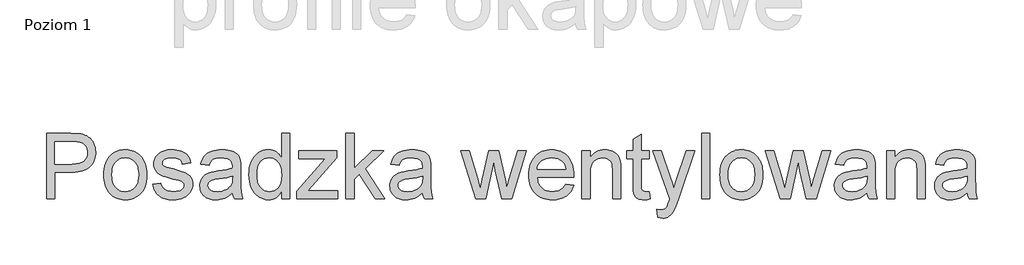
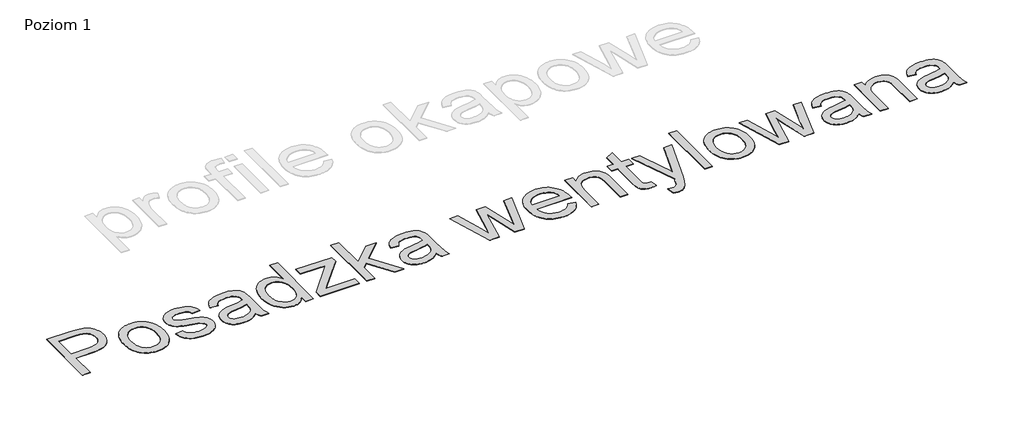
# One storey, part 2 of 4: 1 proxy.
"""IFC4 building model written with IfcOpenShell, lengths in millimetres."""

from ifc_helpers import new_model, si_unit, origin, origin_with_axes, place, context, project, spatial, polyline, outline, extrude, element, save

model = new_model("IFC4")

# Units and contexts
model_context = context("Model", 3, world=origin())
ifc_project = project(units=[si_unit("LENGTHUNIT", "METRE", prefix="MILLI")], contexts=[model_context])

# Site, building, storey
site = spatial("IfcSite", under=ifc_project)
building = spatial("IfcBuilding", under=site)
storey = spatial("IfcBuildingStorey", under=building, Name="Poziom 1", Elevation=0.0)

# Proxy
placement = place(None, origin())
element("IfcBuildingElementProxy", 1, Name="1500 mm Arial", ObjectType="1500 mm Arial", at=placement, inside=storey, context=model_context, shape_type="SweptSolid", body=[
    extrude(outline(polyline([(-57786.8765963, 13469.9710949), (-57786.8765963, 14976.8157471), (-57228.4317277, 14976.8157471), (-57098.3854424, 14973.2288977), (-57003.2879466, 14962.4683493), (-56950.8762586, 14951.1674743), (-56902.9021472, 14935.6589489), (-56859.3656123, 14915.9427732), (-56820.266654, 14892.0189472), (-56785.191405, 14863.3931295), (-56753.7259981, 14829.5709785), (-56725.8704333, 14790.5524944), (-56701.6247106, 14746.3376771), (-56681.9890091, 14698.3865583), (-56667.963508, 14648.1591697), (-56659.5482074, 14595.6555112), (-56656.7431072, 14540.8755828), (-56658.6371246, 14493.7004651), (-56664.319177, 14448.3762537), (-56673.7892643, 14404.9029485), (-56687.0473865, 14363.2805496), (-56704.0935436, 14323.5090571), (-56724.9277357, 14285.5884708), (-56749.5499627, 14249.5187908), (-56777.9602246, 14215.3000171), (-56811.3139008, 14184.0875291), (-56850.7663707, 14157.0367061), (-56896.3176343, 14134.1475482), (-56947.9676916, 14115.4200554), (-57005.7165426, 14100.8542277), (-57069.5641873, 14090.450065), (-57139.5106257, 14084.2075674), (-57215.5558578, 14082.1267348), (-57598.5210148, 14082.1267348), (-57598.5210148, 13469.9710949), (-57786.8765963, 13469.9710949)]), holes=[polyline([(-57598.5210148, 14270.4823164), (-57204.519398, 14270.4823164), (-57113.9284567, 14274.8049298), (-57037.5009722, 14287.7727701), (-57004.5985262, 14297.4986504), (-56975.2369445, 14309.3858374), (-56949.4162269, 14323.434331), (-56927.1363736, 14339.6441315), (-56891.2448865, 14377.7429106), (-56865.6081099, 14422.8774329), (-56850.226044, 14475.0476983), (-56845.0986887, 14534.2537069), (-56848.1222188, 14578.2156053), (-56857.1928093, 14618.8665658), (-56872.31046, 14656.2065883), (-56893.4751711, 14690.2356729), (-56919.5603038, 14719.8501735), (-56949.4392196, 14743.9464442), (-56983.1119184, 14762.5244849), (-57020.5784004, 14775.5842957), (-57093.2350944, 14785.2411981), (-57208.9339819, 14788.4601656), (-57598.5210148, 14788.4601656), (-57598.5210148, 14270.4823164)])]), origin_with_axes(), (0.0, 0.0, 1.0), 10.0),
    extrude(outline(polyline([(-56468.3875256, 14023.2656156), (-56465.8410924, 14097.3995858), (-56458.2017929, 14166.5786454), (-56445.469627, 14230.8027943), (-56427.6445947, 14290.0720326), (-56404.726696, 14344.3863603), (-56376.715931, 14393.7457774), (-56343.6122995, 14438.1502838), (-56305.4158018, 14477.5998797), (-56270.4555159, 14506.3119197), (-56233.6328275, 14531.1956878), (-56194.9477364, 14552.2511839), (-56154.4002427, 14569.4784079), (-56111.9903465, 14582.87736), (-56067.7180476, 14592.44804), (-56021.5833462, 14598.190448), (-55973.5862421, 14600.104584), (-55920.3841826, 14597.7737067), (-55869.6710748, 14590.7810747), (-55821.4469186, 14579.1266881), (-55775.711714, 14562.8105468), (-55732.465461, 14541.8326508), (-55691.7081596, 14516.1930002), (-55653.4398099, 14485.8915949), (-55617.6604118, 14450.928435), (-55585.2839221, 14411.8553434), (-55557.2242978, 14369.2241431), (-55533.4815387, 14323.0348342), (-55514.0556449, 14273.2874166), (-55498.9466164, 14219.9818903), (-55488.1544532, 14163.1182553), (-55481.6791552, 14102.6965117), (-55479.5207226, 14038.7166594), (-55483.3374983, 13937.8940001), (-55494.7878254, 13848.4296974), (-55513.8717039, 13770.3237513), (-55540.5891338, 13703.5761618), (-55574.606722, 13645.9221554), (-55615.5910756, 13595.0969585), (-55663.5421944, 13551.1005711), (-55718.4600785, 13513.9329933), (-55778.2064137, 13484.3989669), (-55840.6428861, 13463.3032337), (-55905.7694956, 13450.6457938), (-55973.5862421, 13446.4266472), (-56027.6275324, 13448.7489023), (-56079.0189227, 13455.7156675), (-56127.760413, 13467.326943), (-56173.8520032, 13483.5827287), (-56217.2936935, 13504.4830245), (-56258.0854838, 13530.0278306), (-56296.2273741, 13560.2171468), (-56331.7193644, 13595.0509732), (-56363.7509647, 13634.2533983), (-56391.5116849, 13677.5485106), (-56415.0015252, 13724.9363101), (-56434.2204853, 13776.4167968), (-56449.1685655, 13831.9899707), (-56459.8457655, 13891.6558318), (-56466.2520856, 13955.4143801), (-56468.3875256, 14023.2656156)]), holes=[polyline([(-56280.0319441, 14023.6334976), (-56274.582692, 13932.2723034), (-56267.771127, 13891.1873571), (-56258.2349359, 13853.1661781), (-56245.9741188, 13818.2087663), (-56230.9886756, 13786.3151218), (-56213.2786064, 13757.4852445), (-56192.8439112, 13731.7191344), (-56170.345628, 13708.9995471), (-56146.4447946, 13689.3092382), (-56121.1414111, 13672.6482075), (-56094.4354775, 13659.0164551), (-56066.3269938, 13648.4139811), (-56036.81596, 13640.8407853), (-55973.5862421, 13634.7822287), (-55910.6784209, 13640.8752742), (-55881.2938466, 13648.4915812), (-55853.2888297, 13659.1544109), (-55826.6633703, 13672.8637634), (-55801.4174684, 13689.6196386), (-55777.5511239, 13709.4220366), (-55755.064337, 13732.2709574), (-55734.6296418, 13758.241127), (-55716.9195726, 13787.4072714), (-55701.9341295, 13819.7693907), (-55689.6733123, 13855.3274848), (-55680.1371212, 13894.0815537), (-55673.3255562, 13936.0315975), (-55667.8763041, 14029.5196095), (-55673.3600451, 14117.9837331), (-55680.2147213, 14157.9305444), (-55689.8112681, 14195.0205221), (-55702.1496853, 14229.2536662), (-55717.229973, 14260.6299767), (-55735.0521313, 14289.1494535), (-55755.61616, 14314.8120968), (-55802.141736, 14357.221993), (-55827.3962602, 14373.8830237), (-55853.9786084, 14387.5147761), (-55881.8887807, 14398.1172501), (-55911.1267771, 14405.6904459), (-55973.5862421, 14411.7490025), (-56036.81596, 14405.7134385), (-56066.3269938, 14398.1689836), (-56094.4354775, 14387.6067466), (-56121.1414111, 14374.0267276), (-56146.4447946, 14357.4289267), (-56170.345628, 14337.8133437), (-56192.8439112, 14315.1799788), (-56213.2786064, 14289.5000911), (-56230.9886756, 14260.7449398), (-56245.9741188, 14228.914525), (-56258.2349359, 14194.0088466), (-56267.771127, 14156.0279047), (-56274.582692, 14114.9716992), (-56280.0319441, 14023.6334976)])]), origin_with_axes(), (0.0, 0.0, 1.0), 10.0),
    extrude(outline(polyline([(-55338.2540364, 13799.5933625), (-55149.8984549, 13823.1378102), (-55138.5171057, 13780.1875873), (-55120.1919838, 13742.5716533), (-55094.9230893, 13710.2900082), (-55062.7104221, 13683.3426521), (-55023.4620117, 13662.0974668), (-54977.0858877, 13646.9223345), (-54923.58205, 13637.8172552), (-54862.9504987, 13634.7822287), (-54802.3879252, 13637.5643363), (-54750.1946672, 13645.9106591), (-54706.3707245, 13659.821197), (-54670.9160972, 13679.2959501), (-54643.5548738, 13702.5185011), (-54624.0111428, 13727.6724325), (-54612.2849042, 13754.7577444), (-54608.376158, 13783.7744367), (-54612.3078968, 13809.2042797), (-54624.1031133, 13831.7830371), (-54643.7618074, 13851.5107091), (-54671.2839792, 13868.3872956), (-54741.8253518, 13892.2996253), (-54865.1577906, 13922.0980669), (-55037.0506529, 13971.8081215), (-55100.4413192, 13993.9385228), (-55148.7948089, 14014.2525067), (-55187.1580032, 14035.5321809), (-55220.5777832, 14060.5596529), (-55249.0541489, 14089.3349227), (-55272.5871003, 14121.8579903), (-55291.015689, 14157.1516692), (-55304.1789666, 14194.2387729), (-55312.0769332, 14233.1193012), (-55314.7095888, 14273.7932543), (-55312.5942673, 14310.9838248), (-55306.2483029, 14346.7718451), (-55295.6716955, 14381.1573154), (-55280.8644452, 14414.1402355), (-55262.4013676, 14445.0538194), (-55240.8572782, 14473.231281), (-55216.2321772, 14498.6726202), (-55188.5260644, 14521.3778371), (-55136.5167473, 14551.6821164), (-55068.780475, 14577.1119593), (-54990.4675953, 14594.3564279), (-54906.7284561, 14600.104584), (-54843.4297603, 14597.7938253), (-54784.1317812, 14590.8615489), (-54728.8345188, 14579.307755), (-54677.5379731, 14563.1324435), (-54631.4607532, 14543.0138969), (-54591.8214682, 14519.6303976), (-54558.6201182, 14492.9819456), (-54531.856703, 14463.0685408), (-54510.1516653, 14428.844019), (-54492.1254475, 14389.2622156), (-54477.7780497, 14344.3231306), (-54467.1094719, 14294.0267641), (-54655.4650534, 14270.4823164), (-54664.4436733, 14301.9477233), (-54679.2394273, 14329.7573028), (-54699.8523154, 14353.9110551), (-54726.2823375, 14374.40898), (-54758.6444567, 14390.7452399), (-54797.0536363, 14402.4139969), (-54841.5098761, 14409.4152511), (-54892.0131763, 14411.7490025), (-54950.598384, 14409.5187179), (-55000.1704829, 14402.8278641), (-55040.7294728, 14391.6764412), (-55072.2753539, 14376.064449), (-55095.9347647, 14357.4864082), (-55112.8343439, 14337.4368395), (-55122.9740914, 14315.9157428), (-55126.3540072, 14292.9231181), (-55120.7438068, 14263.952411), (-55103.9132055, 14238.1087008), (-55075.1264394, 14215.0241056), (-55033.6477444, 14196.5380353), (-54871.4117846, 14156.4388979), (-54704.991167, 14107.234681), (-54594.9484652, 14067.779337), (-54556.2288852, 14048.5345102), (-54521.9238891, 14025.3809371), (-54492.033477, 13998.3186178), (-54466.5576489, 13967.3475523), (-54446.1976797, 13932.4217554), (-54431.6548446, 13893.4952418), (-54422.9291435, 13850.5680115), (-54420.0205765, 13803.6400645), (-54423.4349812, 13756.5051839), (-54433.6781956, 13710.7498607), (-54450.7502194, 13666.374095), (-54474.6510528, 13623.3778868), (-54504.9898211, 13583.4741867), (-54541.3756496, 13548.3759451), (-54583.8085385, 13518.083162), (-54632.2884877, 13492.5958376), (-54685.4934213, 13472.3968168), (-54742.1012633, 13457.9689448), (-54802.1120137, 13449.3122216), (-54865.5256726, 13446.4266472), (-54966.9001549, 13451.9908623), (-55012.7761894, 13458.9461313), (-55055.4447527, 13468.6835079), (-55094.9058448, 13481.202992), (-55131.1594658, 13496.5045838), (-55164.2056156, 13514.5882831), (-55194.0442943, 13535.45409), (-55221.0031468, 13559.0560193), (-55245.4098179, 13585.3480856), (-55267.2643077, 13614.330289), (-55286.5666161, 13646.0026296), (-55303.3167432, 13680.3651072), (-55317.514689, 13717.4177219), (-55338.2540364, 13799.5933625)])), origin_with_axes(), (0.0, 0.0, 1.0), 10.0),
    extrude(outline(polyline([(-53501.7871165, 13611.237781), (-53546.45029, 13569.3222262), (-53591.7802496, 13534.0745325), (-53637.7769953, 13505.4947), (-53684.4405271, 13483.5827287), (-53732.2996754, 13467.326943), (-53781.8832706, 13455.7156675), (-53833.1913126, 13448.7489023), (-53886.2238015, 13446.4266472), (-53970.0894001, 13452.013855), (-54008.1508162, 13458.9978647), (-54043.6313102, 13468.7754784), (-54076.530882, 13481.3466959), (-54106.8495318, 13496.7115174), (-54134.5872594, 13514.8699427), (-54159.7440649, 13535.821972), (-54182.1187628, 13558.9468043), (-54201.5101677, 13583.6236387), (-54217.9182795, 13609.8524754), (-54231.3430982, 13637.6333142), (-54241.7846239, 13666.9661551), (-54249.2428565, 13697.8509982), (-54255.2094426, 13764.276691), (-54252.9561654, 13804.2148801), (-54246.1963338, 13842.3596445), (-54234.9299477, 13878.7109841), (-54219.1570071, 13913.268899), (-54199.7167429, 13945.2746326), (-54177.4483859, 13973.9694283), (-54152.3519361, 13999.3532859), (-54124.4273934, 14021.4262056), (-54062.1173804, 14057.2947002), (-53992.5416981, 14083.2303808), (-53924.7594405, 14097.6697491), (-53829.5699742, 14111.5572944), (-53725.9652073, 14125.8127218), (-53636.9837497, 14141.3557361), (-53562.6256015, 14158.1863373), (-53502.8907625, 14176.3045256), (-53501.7871165, 14218.2430731), (-53505.0290766, 14263.9064257), (-53514.7549568, 14302.3041089), (-53530.9647573, 14333.4361228), (-53553.6584778, 14357.3024672), (-53592.8838956, 14381.1228264), (-53640.6625697, 14398.1373687), (-53696.9945002, 14408.3460941), (-53761.8796871, 14411.7490025), (-53822.2123343, 14409.484229), (-53874.0836956, 14402.6899084), (-53917.4937711, 14391.3660407), (-53952.4425606, 14375.512626), (-53981.1603489, 14353.8880625), (-54005.8774204, 14325.2507484), (-54026.5937753, 14289.6006838), (-54043.3094134, 14246.9378687), (-54231.664995, 14270.4823164), (-54217.3290935, 14324.7449107), (-54198.9694826, 14373.489275), (-54176.5861625, 14416.7154094), (-54150.179133, 14454.423314), (-54118.6102593, 14487.3717451), (-54080.7414064, 14516.3194596), (-54036.5725744, 14541.2664574), (-53986.1037632, 14562.2127385), (-53930.3581446, 14578.7904209), (-53870.3588904, 14590.6316227), (-53806.1060007, 14597.7363437), (-53737.5994754, 14600.104584), (-53670.633456, 14598.0122552), (-53610.2663198, 14591.7352687), (-53556.498067, 14581.2736244), (-53509.3286974, 14566.6273225), (-53468.3673365, 14548.8195347), (-53433.2231097, 14528.8734327), (-53403.8960169, 14506.7890167), (-53380.3860581, 14482.5662866), (-53361.3251722, 14455.6074341), (-53345.3452981, 14425.3146511), (-53332.4464356, 14391.6879375), (-53322.6285849, 14354.7272933), (-53315.7307975, 14289.6121801), (-53313.431535, 14189.9161594), (-53313.431535, 13955.5753285), (-53311.040302, 13751.4468064), (-53303.8666031, 13628.3442938), (-53289.7031463, 13547.4562401), (-53266.3426396, 13469.9710949), (-53454.6982211, 13469.9710949), (-53471.4368519, 13501.4250054), (-53484.8645447, 13535.45409), (-53494.9812996, 13572.0583485), (-53501.7871165, 13611.237781)]), holes=[polyline([(-53501.7871165, 13987.9489441), (-53558.7168553, 13971.6471732), (-53628.3385229, 13956.587004), (-53805.6576445, 13930.1914708), (-53903.3762995, 13915.7521025), (-53967.7096634, 13899.6572652), (-54009.8781371, 13878.779962), (-54026.8581904, 13865.3752618), (-54041.1021214, 13849.9931959), (-54052.3685076, 13833.1855872), (-54060.4159262, 13815.5042588), (-54065.2443774, 13796.9492107), (-54066.8538611, 13777.5204428), (-54063.3474858, 13748.2508316), (-54052.82836, 13721.5104091), (-54035.2964837, 13697.2991753), (-54010.7518568, 13675.6171302), (-53979.4244057, 13657.7518608), (-53941.5440565, 13644.9909541), (-53897.1108093, 13637.33441), (-53846.124664, 13634.7822287), (-53794.0693617, 13637.5988252), (-53744.9571153, 13646.0486148), (-53698.7879249, 13660.1315974), (-53655.5617905, 13679.8477731), (-53616.566299, 13703.5646655), (-53583.0890375, 13729.6497982), (-53555.1300058, 13758.1031713), (-53532.6892041, 13788.9247847), (-53519.6523859, 13816.5159343), (-53510.3403729, 13849.9931959), (-53504.7531651, 13889.3565694), (-53502.8907625, 13934.6060548), (-53501.7871165, 13987.9489441)])]), origin_with_axes(), (0.0, 0.0, 1.0), 10.0),
    extrude(outline(polyline([(-52371.6536273, 13469.9710949), (-52371.6536273, 13647.6580985), (-52398.3423165, 13600.4944771), (-52428.0085505, 13559.6193386), (-52460.6523294, 13525.0326829), (-52496.2736532, 13496.73451), (-52534.8725219, 13474.72482), (-52576.4489355, 13459.0036129), (-52621.002894, 13449.5708886), (-52668.5343974, 13446.4266472), (-52730.7064546, 13450.9791869), (-52790.3033378, 13464.6368059), (-52847.3250471, 13487.3995044), (-52901.7715824, 13519.2672822), (-52951.9414895, 13559.2859455), (-52996.1333141, 13606.5013003), (-53034.3470564, 13660.9133467), (-53066.5827162, 13722.5220845), (-53092.1735075, 13790.1548901), (-53110.4526442, 13862.6391395), (-53121.4201261, 13939.9748326), (-53125.0759535, 14022.1619696), (-53121.7075339, 14102.8430897), (-53111.6022754, 14179.7074341), (-53094.7601778, 14252.7550027), (-53071.1812412, 14321.9857957), (-53040.8769618, 14385.376462), (-53003.858836, 14440.9036506), (-52960.1268639, 14488.5673616), (-52909.6810453, 14528.367595), (-52854.3033087, 14559.7525277), (-52795.7755825, 14582.1703368), (-52734.0978668, 14595.6210222), (-52669.2701614, 14600.104584), (-52621.8593693, 14596.8971129), (-52577.1157216, 14587.2746995), (-52535.0392184, 14571.2373437), (-52495.6298597, 14548.7850457), (-52459.3245053, 14521.2053924), (-52426.5600151, 14489.7859707), (-52397.3363891, 14454.5267808), (-52371.6536273, 14415.4278225), (-52371.6536273, 14976.8157471), (-52183.2980458, 14976.8157471), (-52183.2980458, 13469.9710949), (-52371.6536273, 13469.9710949)]), holes=[polyline([(-52936.7203719, 14022.8977336), (-52931.4090756, 13931.559532), (-52924.7699552, 13890.5033265), (-52915.4751867, 13852.5223846), (-52903.52477, 13817.6167062), (-52888.9187052, 13785.7862914), (-52871.6569922, 13757.0311401), (-52851.739631, 13731.3512524), (-52807.3408727, 13689.1023046), (-52759.1253388, 13658.9244846), (-52707.0930291, 13640.8177927), (-52651.2439437, 13634.7822287), (-52595.1304431, 13640.5418812), (-52543.4085338, 13657.8208386), (-52496.0782159, 13686.6191011), (-52453.1394893, 13726.9366685), (-52434.0412404, 13751.4956657), (-52417.4894247, 13779.0954376), (-52403.4840422, 13809.7359841), (-52392.0250928, 13843.4173052), (-52376.7464937, 13919.9022713), (-52371.6536273, 14008.5503358), (-52376.8384642, 14105.7401604), (-52383.3195103, 14149.1444877), (-52392.3929748, 14189.0884249), (-52404.0588578, 14225.5719722), (-52418.3171592, 14258.5951294), (-52435.167879, 14288.1578966), (-52454.6110172, 14314.2602738), (-52498.4924415, 14356.9115926), (-52522.2352006, 14373.6674679), (-52547.1793243, 14387.3768203), (-52573.3248126, 14398.03965), (-52600.6716656, 14405.655957), (-52658.9694656, 14411.7490025), (-52715.9221969, 14405.8973795), (-52767.9545066, 14388.3425106), (-52815.0663946, 14359.0843956), (-52857.257861, 14318.1230347), (-52875.881887, 14293.029459), (-52892.0227095, 14264.5617155), (-52905.6803286, 14232.7198044), (-52916.8547442, 14197.5037256), (-52931.753965, 14116.9490649), (-52936.7203719, 14022.8977336)])]), origin_with_axes(), (0.0, 0.0, 1.0), 10.0),
    extrude(outline(polyline([(-52018.486912, 13469.9710949), (-52018.486912, 13647.2902165), (-51368.4394265, 14388.2045548), (-51560.84171, 14388.2045548), (-51971.3980166, 14388.2045548), (-51971.3980166, 14576.5601364), (-51100.253452, 14576.5601364), (-51100.253452, 14416.5314685), (-51676.7245384, 13759.1263431), (-51765.0162173, 13658.3266764), (-51547.2300761, 13658.3266764), (-51076.7090043, 13658.3266764), (-51076.7090043, 13469.9710949), (-52018.486912, 13469.9710949)])), origin_with_axes(), (0.0, 0.0, 1.0), 10.0),
    extrude(outline(polyline([(-50888.3534228, 13469.9710949), (-50888.3534228, 14976.8157471), (-50699.9978413, 14976.8157471), (-50699.9978413, 14167.1074757), (-50277.6693108, 14576.5601364), (-50017.2088582, 14576.5601364), (-50444.6877366, 14161.9571278), (-49993.6644105, 13469.9710949), (-50213.6578436, 13469.9710949), (-50579.7004288, 14030.9911375), (-50699.9978413, 13914.372545), (-50699.9978413, 13469.9710949), (-50888.3534228, 13469.9710949)])), origin_with_axes(), (0.0, 0.0, 1.0), 10.0),
    extrude(outline(polyline([(-49122.5198459, 13611.237781), (-49167.1830194, 13569.3222262), (-49212.512979, 13534.0745325), (-49258.5097247, 13505.4947), (-49305.1732565, 13483.5827287), (-49353.0324049, 13467.326943), (-49402.616, 13455.7156675), (-49453.924042, 13448.7489023), (-49506.9565309, 13446.4266472), (-49590.8221295, 13452.013855), (-49628.8835456, 13458.9978647), (-49664.3640396, 13468.7754784), (-49697.2636114, 13481.3466959), (-49727.5822612, 13496.7115174), (-49755.3199888, 13514.8699427), (-49780.4767943, 13535.821972), (-49802.8514922, 13558.9468043), (-49822.2428971, 13583.6236387), (-49838.6510089, 13609.8524754), (-49852.0758276, 13637.6333142), (-49862.5173533, 13666.9661551), (-49869.9755859, 13697.8509982), (-49875.9421721, 13764.276691), (-49873.6888948, 13804.2148801), (-49866.9290632, 13842.3596445), (-49855.6626771, 13878.7109841), (-49839.8897365, 13913.268899), (-49820.4494723, 13945.2746326), (-49798.1811153, 13973.9694283), (-49773.0846655, 13999.3532859), (-49745.1601228, 14021.4262056), (-49682.8501098, 14057.2947002), (-49613.2744275, 14083.2303808), (-49545.4921699, 14097.6697491), (-49450.3027036, 14111.5572944), (-49346.6979367, 14125.8127218), (-49257.7164792, 14141.3557361), (-49183.3583309, 14158.1863373), (-49123.6234919, 14176.3045256), (-49122.5198459, 14218.2430731), (-49125.761806, 14263.9064257), (-49135.4876863, 14302.3041089), (-49151.6974867, 14333.4361228), (-49174.3912073, 14357.3024672), (-49213.616625, 14381.1228264), (-49261.3952991, 14398.1373687), (-49317.7272296, 14408.3460941), (-49382.6124165, 14411.7490025), (-49442.9450637, 14409.484229), (-49494.8164251, 14402.6899084), (-49538.2265005, 14391.3660407), (-49573.17529, 14375.512626), (-49601.8930783, 14353.8880625), (-49626.6101498, 14325.2507484), (-49647.3265047, 14289.6006838), (-49664.0421428, 14246.9378687), (-49852.3977244, 14270.4823164), (-49838.0618229, 14324.7449107), (-49819.702212, 14373.489275), (-49797.3188919, 14416.7154094), (-49770.9118624, 14454.423314), (-49739.3429887, 14487.3717451), (-49701.4741358, 14516.3194596), (-49657.3053038, 14541.2664574), (-49606.8364926, 14562.2127385), (-49551.090874, 14578.7904209), (-49491.0916199, 14590.6316227), (-49426.8387301, 14597.7363437), (-49358.3322048, 14600.104584), (-49291.3661854, 14598.0122552), (-49230.9990493, 14591.7352687), (-49177.2307964, 14581.2736244), (-49130.0614268, 14566.6273225), (-49089.1000659, 14548.8195347), (-49053.9558391, 14528.8734327), (-49024.6287463, 14506.7890167), (-49001.1187875, 14482.5662866), (-48982.0579017, 14455.6074341), (-48966.0780275, 14425.3146511), (-48953.179165, 14391.6879375), (-48943.3613143, 14354.7272933), (-48936.4635269, 14289.6121801), (-48934.1642644, 14189.9161594), (-48934.1642644, 13955.5753285), (-48931.7730314, 13751.4468064), (-48924.5993325, 13628.3442938), (-48910.4358757, 13547.4562401), (-48887.075369, 13469.9710949), (-49075.4309506, 13469.9710949), (-49092.1695813, 13501.4250054), (-49105.5972742, 13535.45409), (-49115.714029, 13572.0583485), (-49122.5198459, 13611.237781)]), holes=[polyline([(-49122.5198459, 13987.9489441), (-49179.4495847, 13971.6471732), (-49249.0712523, 13956.587004), (-49426.390374, 13930.1914708), (-49524.1090289, 13915.7521025), (-49588.4423928, 13899.6572652), (-49630.6108665, 13878.779962), (-49647.5909199, 13865.3752618), (-49661.8348509, 13849.9931959), (-49673.101237, 13833.1855872), (-49681.1486556, 13815.5042588), (-49685.9771068, 13796.9492107), (-49687.5865905, 13777.5204428), (-49684.0802153, 13748.2508316), (-49673.5610895, 13721.5104091), (-49656.0292131, 13697.2991753), (-49631.4845863, 13675.6171302), (-49600.1571351, 13657.7518608), (-49562.2767859, 13644.9909541), (-49517.8435387, 13637.33441), (-49466.8573934, 13634.7822287), (-49414.8020911, 13637.5988252), (-49365.6898447, 13646.0486148), (-49319.5206544, 13660.1315974), (-49276.2945199, 13679.8477731), (-49237.2990284, 13703.5646655), (-49203.8217669, 13729.6497982), (-49175.8627352, 13758.1031713), (-49153.4219335, 13788.9247847), (-49140.3851153, 13816.5159343), (-49131.0731023, 13849.9931959), (-49125.4858945, 13889.3565694), (-49123.6234919, 13934.6060548), (-49122.5198459, 13987.9489441)])]), origin_with_axes(), (0.0, 0.0, 1.0), 10.0),
    extrude(outline(polyline([(-47902.9910319, 13469.9710949), (-48239.6030575, 14576.5601364), (-48043.8898361, 14576.5601364), (-47852.9590806, 13930.9272348), (-47795.9373713, 13700.2652238), (-47749.2163579, 13922.4659489), (-47597.2810939, 14576.5601364), (-47372.8730769, 14576.5601364), (-47221.6735769, 13924.3053589), (-47180.1029114, 13723.0739075), (-47120.5060282, 13935.3418188), (-46929.2073907, 14576.5601364), (-46732.7584053, 14576.5601364), (-47071.9456048, 13469.9710949), (-47299.6645598, 13469.9710949), (-47444.2421839, 14118.9149344), (-47486.1807314, 14321.2500317), (-47672.6969029, 13469.9710949), (-47902.9910319, 13469.9710949)])), origin_with_axes(), (0.0, 0.0, 1.0), 10.0),
    extrude(outline(polyline([(-45828.5044611, 13799.5933625), (-45643.8276995, 13776.0489148), (-45672.1431169, 13702.0816412), (-45690.0170085, 13668.3916979), (-45710.3683554, 13636.8975502), (-45733.1971577, 13607.5991982), (-45758.5034152, 13580.4966418), (-45786.2871281, 13555.5898811), (-45816.5482963, 13532.878916), (-45849.1374677, 13512.6166655), (-45883.9051903, 13495.0560484), (-45920.8514641, 13480.1970647), (-45959.9762891, 13468.0397144), (-46044.7615927, 13451.829914), (-46138.2611011, 13446.4266472), (-46198.289096, 13448.7575245), (-46255.1326124, 13455.7501565), (-46308.7916503, 13467.4045431), (-46359.2662097, 13483.7206844), (-46406.5562905, 13504.6985804), (-46450.6618928, 13530.338231), (-46491.5830166, 13560.6396363), (-46529.3196619, 13595.6027962), (-46563.2050426, 13634.7736065), (-46592.5723725, 13677.6979627), (-46617.4216516, 13724.3758649), (-46637.75288, 13774.8073131), (-46653.5660576, 13828.9923073), (-46664.8611845, 13886.9308475), (-46671.6382607, 13948.6229336), (-46673.897286, 14014.0685657), (-46671.615268, 14081.7416084), (-46664.769214, 14145.5174011), (-46653.359124, 14205.395944), (-46637.384998, 14261.377237), (-46616.846836, 14313.4612801), (-46591.744638, 14361.6480733), (-46562.078404, 14405.9376166), (-46527.848134, 14446.3299101), (-46489.9792811, 14482.3708493), (-46449.3972985, 14513.6063299), (-46406.1021862, 14540.036352), (-46360.0939442, 14561.6609155), (-46311.3725724, 14578.4800205), (-46259.938071, 14590.4936669), (-46205.7904398, 14597.7018548), (-46148.9296789, 14600.104584), (-46093.9284466, 14597.7076029), (-46041.49664, 14590.5166595), (-45991.6342593, 14578.5317539), (-45944.3413044, 14561.752886), (-45899.6177752, 14540.1800559), (-45857.4636719, 14513.8132636), (-45817.8789944, 14482.6525089), (-45780.8637427, 14446.6977921), (-45747.3663626, 14406.3974691), (-45718.3352999, 14362.1998963), (-45693.7705545, 14314.1050736), (-45673.6721264, 14262.113001), (-45658.0400157, 14206.2236785), (-45646.8742223, 14146.4371061), (-45640.1747463, 14082.7532839), (-45637.9415876, 14015.1722117), (-45639.0452336, 13964.4044964), (-46485.5417045, 13964.4044964), (-46474.6317041, 13889.2416062), (-46465.132876, 13855.1607883), (-46452.9381627, 13823.4137217), (-46438.0475641, 13794.0004066), (-46420.4610803, 13766.9208428), (-46400.1787112, 13742.1750305), (-46377.2004569, 13719.7629696), (-46325.5475255, 13682.5838954), (-46267.8935191, 13656.0274139), (-46204.2384376, 13640.093525), (-46134.5822811, 13634.7822287), (-46082.4809935, 13637.2424395), (-46034.3344374, 13644.6230721), (-45990.1426128, 13656.9241263), (-45949.9055195, 13674.1456022), (-45913.6231578, 13696.7473523), (-45881.2955274, 13725.189229), (-45852.9226286, 13759.4712324), (-45828.5044611, 13799.5933625)]), holes=[polyline([(-46485.5417045, 14152.7600779), (-45826.2971692, 14152.7600779), (-45835.9770641, 14206.056982), (-45851.7729973, 14252.2721576), (-45873.6849687, 14291.4056048), (-45901.7129782, 14323.4573237), (-45926.5105239, 14344.1506859), (-45953.0785017, 14362.0849332), (-45981.4169117, 14377.2600655), (-46011.5257537, 14389.6760828), (-46077.0547341, 14406.2307726), (-46149.6654429, 14411.7490025), (-46215.8956984, 14407.3459149), (-46276.6307165, 14394.136652), (-46331.8704973, 14372.1212138), (-46381.6150409, 14341.2996004), (-46423.358151, 14303.0973545), (-46454.5936317, 14258.9400188), (-46475.3214828, 14208.8275932), (-46485.5417045, 14152.7600779)])]), origin_with_axes(), (0.0, 0.0, 1.0), 10.0),
    extrude(outline(polyline([(-45449.5860061, 13469.9710949), (-45449.5860061, 14576.5601364), (-45261.2304246, 14576.5601364), (-45261.2304246, 14422.0496984), (-45230.1558923, 14463.7813122), (-45195.7934147, 14499.9487109), (-45158.1429917, 14530.5518943), (-45117.2046234, 14555.5908626), (-45072.9783098, 14575.0656157), (-45025.4640509, 14588.9761537), (-44974.6618466, 14597.3224765), (-44920.571697, 14600.104584), (-44873.1724012, 14597.8628031), (-44827.7274785, 14591.1374604), (-44784.2369289, 14579.9285559), (-44742.7007524, 14564.2360895), (-44704.6939437, 14544.8992921), (-44671.7914978, 14522.7573946), (-44643.9934145, 14497.8103968), (-44621.2996939, 14470.0582987), (-44602.6641716, 14439.5355895), (-44587.0406831, 14406.2767578), (-44574.4292285, 14370.2818039), (-44564.8298077, 14331.5507276), (-44557.3801973, 14260.08965), (-44554.8969938, 14149.44914), (-44554.8969938, 13469.9710949), (-44743.2525754, 13469.9710949), (-44743.2525754, 14124.0652823), (-44748.6788348, 14221.4620405), (-44755.4616591, 14259.6068049), (-44764.9576131, 14290.7158261), (-44777.8909645, 14316.9159219), (-44794.9859809, 14340.3339102), (-44816.2426625, 14360.9697909), (-44841.6610091, 14378.8235639), (-44870.367301, 14393.2284433), (-44901.4878185, 14403.5176429), (-44935.0225616, 14409.6911626), (-44970.9715304, 14411.7490025), (-45028.1656843, 14407.1274849), (-45081.2901437, 14393.2629323), (-45130.3449085, 14370.1553444), (-45175.3299787, 14337.8047215), (-45195.4628957, 14317.2435668), (-45212.9114238, 14292.5322435), (-45227.6755629, 14263.6707513), (-45239.7553131, 14230.6590904), (-45249.1506744, 14193.4972607), (-45255.8616467, 14152.1852623), (-45261.2304246, 14057.1107592), (-45261.2304246, 13469.9710949), (-45449.5860061, 13469.9710949)])), origin_with_axes(), (0.0, 0.0, 1.0), 10.0),
    extrude(outline(polyline([(-43895.6524585, 13627.0567068), (-43872.1080108, 13464.4528649), (-43946.6960853, 13450.9332016), (-44013.0068149, 13446.4266472), (-44061.0843932, 13448.3810203), (-44103.4138152, 13454.2441396), (-44139.9950811, 13464.0160051), (-44170.8281909, 13477.6966168), (-44196.7178863, 13494.5502107), (-44218.4689092, 13513.8410228), (-44236.0812597, 13535.5690531), (-44249.5549378, 13559.7343017), (-44259.5337369, 13592.1309099), (-44266.6614506, 13638.5530192), (-44270.9380788, 13699.0006295), (-44272.3636215, 13773.4737409), (-44272.3636215, 14388.2045548), (-44413.6303077, 14388.2045548), (-44413.6303077, 14576.5601364), (-44272.3636215, 14576.5601364), (-44272.3636215, 14845.4818748), (-44084.00804, 14956.2143554), (-44084.00804, 14576.5601364), (-43895.6524585, 14576.5601364), (-43895.6524585, 14388.2045548), (-44084.00804, 14388.2045548), (-44084.00804, 13778.9919708), (-44081.5248365, 13717.0038546), (-44074.0752261, 13681.8711241), (-44061.0614005, 13662.4193636), (-44041.8855515, 13647.4741575), (-44014.7082692, 13637.9552109), (-43977.6901434, 13634.7822287), (-43895.6524585, 13627.0567068)])), origin_with_axes(), (0.0, 0.0, 1.0), 10.0),
    extrude(outline(polyline([(-43707.2968769, 13046.1710364), (-43730.8413246, 13227.53686), (-43679.5217863, 13215.1208427), (-43635.1920059, 13210.9821703), (-43584.884143, 13216.1785034), (-43563.9378619, 13222.6739199), (-43545.7966811, 13231.767503), (-43515.3544459, 13256.6455229), (-43490.9822638, 13289.7089172), (-43470.196931, 13338.3613111), (-43439.4787844, 13428.4004294), (-43424.7635046, 13474.0177968), (-43825.0191154, 14576.5601364), (-43626.362838, 14576.5601364), (-43414.0949268, 13962.1972044), (-43375.0074648, 13842.267674), (-43340.1506457, 13716.4520316), (-43266.2063647, 13933.5024088), (-43048.0523416, 14576.5601364), (-42850.8675922, 14576.5601364), (-43236.0400411, 13443.4835912), (-43293.2456914, 13292.8359142), (-43336.1039438, 13197.7384184), (-43360.8670006, 13155.5009669), (-43387.3315116, 13119.287583), (-43415.4974769, 13089.0982667), (-43445.3648964, 13064.9330182), (-43477.5775636, 13046.4239553), (-43512.779272, 13033.2031961), (-43550.9700216, 13025.2707406), (-43592.1498124, 13022.6265887), (-43646.6883182, 13028.5127006), (-43707.2968769, 13046.1710364)])), origin_with_axes(), (0.0, 0.0, 1.0), 10.0),
    extrude(outline(polyline([(-42694.8856262, 13469.9710949), (-42694.8856262, 14976.8157471), (-42506.5300447, 14976.8157471), (-42506.5300447, 13469.9710949), (-42694.8856262, 13469.9710949)])), origin_with_axes(), (0.0, 0.0, 1.0), 10.0),
    extrude(outline(polyline([(-42271.0855678, 14023.2656156), (-42268.5391346, 14097.3995858), (-42260.899835, 14166.5786454), (-42248.1676691, 14230.8027943), (-42230.3426368, 14290.0720326), (-42207.4247381, 14344.3863603), (-42179.4139731, 14393.7457774), (-42146.3103417, 14438.1502838), (-42108.1138439, 14477.5998797), (-42073.153558, 14506.3119197), (-42036.3308696, 14531.1956878), (-41997.6457785, 14552.2511839), (-41957.0982849, 14569.4784079), (-41914.6883886, 14582.87736), (-41870.4160898, 14592.44804), (-41824.2813883, 14598.190448), (-41776.2842842, 14600.104584), (-41723.0822248, 14597.7737067), (-41672.3691169, 14590.7810747), (-41624.1449607, 14579.1266881), (-41578.4097561, 14562.8105468), (-41535.1635031, 14541.8326508), (-41494.4062018, 14516.1930002), (-41456.137852, 14485.8915949), (-41420.3584539, 14450.928435), (-41387.9819643, 14411.8553434), (-41359.9223399, 14369.2241431), (-41336.1795808, 14323.0348342), (-41316.753687, 14273.2874166), (-41301.6446585, 14219.9818903), (-41290.8524953, 14163.1182553), (-41284.3771974, 14102.6965117), (-41282.2187647, 14038.7166594), (-41286.0355404, 13937.8940001), (-41297.4858675, 13848.4296974), (-41316.569746, 13770.3237513), (-41343.2871759, 13703.5761618), (-41377.3047642, 13645.9221554), (-41418.2891177, 13595.0969585), (-41466.2402365, 13551.1005711), (-41521.1581206, 13513.9329933), (-41580.9044559, 13484.3989669), (-41643.3409282, 13463.3032337), (-41708.4675377, 13450.6457938), (-41776.2842842, 13446.4266472), (-41830.3255745, 13448.7489023), (-41881.7169648, 13455.7156675), (-41930.4584551, 13467.326943), (-41976.5500454, 13483.5827287), (-42019.9917357, 13504.4830245), (-42060.783526, 13530.0278306), (-42098.9254163, 13560.2171468), (-42134.4174066, 13595.0509732), (-42166.4490068, 13634.2533983), (-42194.2097271, 13677.5485106), (-42217.6995673, 13724.9363101), (-42236.9185275, 13776.4167968), (-42251.8666076, 13831.9899707), (-42262.5438077, 13891.6558318), (-42268.9501277, 13955.4143801), (-42271.0855678, 14023.2656156)]), holes=[polyline([(-42082.7299862, 14023.6334976), (-42077.2807342, 13932.2723034), (-42070.4691691, 13891.1873571), (-42060.932978, 13853.1661781), (-42048.6721609, 13818.2087663), (-42033.6867178, 13786.3151218), (-42015.9766486, 13757.4852445), (-41995.5419534, 13731.7191344), (-41973.0436701, 13708.9995471), (-41949.1428367, 13689.3092382), (-41923.8394533, 13672.6482075), (-41897.1335197, 13659.0164551), (-41869.025036, 13648.4139811), (-41839.5140022, 13640.8407853), (-41776.2842842, 13634.7822287), (-41713.3764631, 13640.8752742), (-41683.9918887, 13648.4915812), (-41655.9868718, 13659.1544109), (-41629.3614124, 13672.8637634), (-41604.1155105, 13689.6196386), (-41580.2491661, 13709.4220366), (-41557.7623791, 13732.2709574), (-41537.3276839, 13758.241127), (-41519.6176147, 13787.4072714), (-41504.6321716, 13819.7693907), (-41492.3713545, 13855.3274848), (-41482.8351634, 13894.0815537), (-41476.0235983, 13936.0315975), (-41470.5743463, 14029.5196095), (-41476.0580872, 14117.9837331), (-41482.9127635, 14157.9305444), (-41492.5093102, 14195.0205221), (-41504.8477274, 14229.2536662), (-41519.9280152, 14260.6299767), (-41537.7501734, 14289.1494535), (-41558.3142021, 14314.8120968), (-41604.8397782, 14357.221993), (-41630.0943023, 14373.8830237), (-41656.6766506, 14387.5147761), (-41684.5868229, 14398.1172501), (-41713.8248193, 14405.6904459), (-41776.2842842, 14411.7490025), (-41839.5140022, 14405.7134385), (-41869.025036, 14398.1689836), (-41897.1335197, 14387.6067466), (-41923.8394533, 14374.0267276), (-41949.1428367, 14357.4289267), (-41973.0436701, 14337.8133437), (-41995.5419534, 14315.1799788), (-42015.9766486, 14289.5000911), (-42033.6867178, 14260.7449398), (-42048.6721609, 14228.914525), (-42060.932978, 14194.0088466), (-42070.4691691, 14156.0279047), (-42077.2807342, 14114.9716992), (-42082.7299862, 14023.6334976)])]), origin_with_axes(), (0.0, 0.0, 1.0), 10.0),
    extrude(outline(polyline([(-40886.7456199, 13469.9710949), (-41223.3576455, 14576.5601364), (-41027.6444241, 14576.5601364), (-40836.7136686, 13930.9272348), (-40779.6919593, 13700.2652238), (-40732.9709459, 13922.4659489), (-40581.0356819, 14576.5601364), (-40356.6276649, 14576.5601364), (-40205.4281648, 13924.3053589), (-40163.8574994, 13723.0739075), (-40104.2606162, 13935.3418188), (-39912.9619787, 14576.5601364), (-39716.5129933, 14576.5601364), (-40055.7001928, 13469.9710949), (-40283.4191478, 13469.9710949), (-40427.9967719, 14118.9149344), (-40469.9353194, 14321.2500317), (-40656.4514909, 13469.9710949), (-40886.7456199, 13469.9710949)])), origin_with_axes(), (0.0, 0.0, 1.0), 10.0),
    extrude(outline(polyline([(-38880.6851002, 13611.237781), (-38925.3482737, 13569.3222262), (-38970.6782333, 13534.0745325), (-39016.674979, 13505.4947), (-39063.3385108, 13483.5827287), (-39111.1976591, 13467.326943), (-39160.7812543, 13455.7156675), (-39212.0892963, 13448.7489023), (-39265.1217852, 13446.4266472), (-39348.9873838, 13452.013855), (-39387.0487999, 13458.9978647), (-39422.5292939, 13468.7754784), (-39455.4288657, 13481.3466959), (-39485.7475155, 13496.7115174), (-39513.4852431, 13514.8699427), (-39538.6420486, 13535.821972), (-39561.0167465, 13558.9468043), (-39580.4081514, 13583.6236387), (-39596.8162632, 13609.8524754), (-39610.2410819, 13637.6333142), (-39620.6826076, 13666.9661551), (-39628.1408402, 13697.8509982), (-39634.1074263, 13764.276691), (-39631.8541491, 13804.2148801), (-39625.0943175, 13842.3596445), (-39613.8279314, 13878.7109841), (-39598.0549908, 13913.268899), (-39578.6147266, 13945.2746326), (-39556.3463696, 13973.9694283), (-39531.2499197, 13999.3532859), (-39503.325377, 14021.4262056), (-39441.0153641, 14057.2947002), (-39371.4396818, 14083.2303808), (-39303.6574242, 14097.6697491), (-39208.4679579, 14111.5572944), (-39104.863191, 14125.8127218), (-39015.8817334, 14141.3557361), (-38941.5235852, 14158.1863373), (-38881.7887462, 14176.3045256), (-38880.6851002, 14218.2430731), (-38883.9270603, 14263.9064257), (-38893.6529405, 14302.3041089), (-38909.862741, 14333.4361228), (-38932.5564615, 14357.3024672), (-38971.7818793, 14381.1228264), (-39019.5605534, 14398.1373687), (-39075.8924839, 14408.3460941), (-39140.7776708, 14411.7490025), (-39201.110318, 14409.484229), (-39252.9816793, 14402.6899084), (-39296.3917548, 14391.3660407), (-39331.3405443, 14375.512626), (-39360.0583326, 14353.8880625), (-39384.7754041, 14325.2507484), (-39405.491759, 14289.6006838), (-39422.2073971, 14246.9378687), (-39610.5629786, 14270.4823164), (-39596.2270771, 14324.7449107), (-39577.8674663, 14373.489275), (-39555.4841462, 14416.7154094), (-39529.0771167, 14454.423314), (-39497.508243, 14487.3717451), (-39459.6393901, 14516.3194596), (-39415.4705581, 14541.2664574), (-39365.0017469, 14562.2127385), (-39309.2561283, 14578.7904209), (-39249.2568741, 14590.6316227), (-39185.0039844, 14597.7363437), (-39116.4974591, 14600.104584), (-39049.5314397, 14598.0122552), (-38989.1643035, 14591.7352687), (-38935.3960507, 14581.2736244), (-38888.2266811, 14566.6273225), (-38847.2653202, 14548.8195347), (-38812.1210934, 14528.8734327), (-38782.7940006, 14506.7890167), (-38759.2840418, 14482.5662866), (-38740.2231559, 14455.6074341), (-38724.2432818, 14425.3146511), (-38711.3444193, 14391.6879375), (-38701.5265686, 14354.7272933), (-38694.6287812, 14289.6121801), (-38692.3295187, 14189.9161594), (-38692.3295187, 13955.5753285), (-38689.9382857, 13751.4468064), (-38682.7645868, 13628.3442938), (-38668.60113, 13547.4562401), (-38645.2406233, 13469.9710949), (-38833.5962048, 13469.9710949), (-38850.3348356, 13501.4250054), (-38863.7625284, 13535.45409), (-38873.8792833, 13572.0583485), (-38880.6851002, 13611.237781)]), holes=[polyline([(-38880.6851002, 13987.9489441), (-38937.614839, 13971.6471732), (-39007.2365066, 13956.587004), (-39184.5556282, 13930.1914708), (-39282.2742832, 13915.7521025), (-39346.6076471, 13899.6572652), (-39388.7761208, 13878.779962), (-39405.7561741, 13865.3752618), (-39420.0001051, 13849.9931959), (-39431.2664912, 13833.1855872), (-39439.3139099, 13815.5042588), (-39444.1423611, 13796.9492107), (-39445.7518448, 13777.5204428), (-39442.2454695, 13748.2508316), (-39431.7263437, 13721.5104091), (-39414.1944674, 13697.2991753), (-39389.6498405, 13675.6171302), (-39358.3223894, 13657.7518608), (-39320.4420402, 13644.9909541), (-39276.008793, 13637.33441), (-39225.0226477, 13634.7822287), (-39172.9673454, 13637.5988252), (-39123.855099, 13646.0486148), (-39077.6859086, 13660.1315974), (-39034.4597742, 13679.8477731), (-38995.4642827, 13703.5646655), (-38961.9870211, 13729.6497982), (-38934.0279895, 13758.1031713), (-38911.5871878, 13788.9247847), (-38898.5503696, 13816.5159343), (-38889.2383566, 13849.9931959), (-38883.6511488, 13889.3565694), (-38881.7887462, 13934.6060548), (-38880.6851002, 13987.9489441)])]), origin_with_axes(), (0.0, 0.0, 1.0), 10.0),
    extrude(outline(polyline([(-38433.3405941, 13469.9710949), (-38433.3405941, 14576.5601364), (-38244.9850125, 14576.5601364), (-38244.9850125, 14422.0496984), (-38213.9104803, 14463.7813122), (-38179.5480027, 14499.9487109), (-38141.8975797, 14530.5518943), (-38100.9592114, 14555.5908626), (-38056.7328978, 14575.0656157), (-38009.2186389, 14588.9761537), (-37958.4164346, 14597.3224765), (-37904.326285, 14600.104584), (-37856.9269892, 14597.8628031), (-37811.4820665, 14591.1374604), (-37767.9915169, 14579.9285559), (-37726.4553403, 14564.2360895), (-37688.4485317, 14544.8992921), (-37655.5460858, 14522.7573946), (-37627.7480025, 14497.8103968), (-37605.0542819, 14470.0582987), (-37586.4187596, 14439.5355895), (-37570.7952711, 14406.2767578), (-37558.1838165, 14370.2818039), (-37548.5843957, 14331.5507276), (-37541.1347853, 14260.08965), (-37538.6515818, 14149.44914), (-37538.6515818, 13469.9710949), (-37727.0071633, 13469.9710949), (-37727.0071633, 14124.0652823), (-37732.4334228, 14221.4620405), (-37739.2162471, 14259.6068049), (-37748.7122011, 14290.7158261), (-37761.6455524, 14316.9159219), (-37778.7405689, 14340.3339102), (-37799.9972504, 14360.9697909), (-37825.415597, 14378.8235639), (-37854.121889, 14393.2284433), (-37885.2424065, 14403.5176429), (-37918.7771496, 14409.6911626), (-37954.7261184, 14411.7490025), (-38011.9202723, 14407.1274849), (-38065.0447317, 14393.2629323), (-38114.0994965, 14370.1553444), (-38159.0845667, 14337.8047215), (-38179.2174837, 14317.2435668), (-38196.6660117, 14292.5322435), (-38211.4301509, 14263.6707513), (-38223.5099011, 14230.6590904), (-38232.9052623, 14193.4972607), (-38239.6162347, 14152.1852623), (-38244.9850125, 14057.1107592), (-38244.9850125, 13469.9710949), (-38433.3405941, 13469.9710949)])), origin_with_axes(), (0.0, 0.0, 1.0), 10.0),
    extrude(outline(polyline([(-36573.3292265, 13611.237781), (-36617.9923999, 13569.3222262), (-36663.3223595, 13534.0745325), (-36709.3191052, 13505.4947), (-36755.9826371, 13483.5827287), (-36803.8417854, 13467.326943), (-36853.4253805, 13455.7156675), (-36904.7334226, 13448.7489023), (-36957.7659114, 13446.4266472), (-37041.63151, 13452.013855), (-37079.6929261, 13458.9978647), (-37115.1734201, 13468.7754784), (-37148.072992, 13481.3466959), (-37178.3916417, 13496.7115174), (-37206.1293693, 13514.8699427), (-37231.2861748, 13535.821972), (-37253.6608727, 13558.9468043), (-37273.0522776, 13583.6236387), (-37289.4603894, 13609.8524754), (-37302.8852081, 13637.6333142), (-37313.3267338, 13666.9661551), (-37320.7849665, 13697.8509982), (-37326.7515526, 13764.276691), (-37324.4982754, 13804.2148801), (-37317.7384437, 13842.3596445), (-37306.4720576, 13878.7109841), (-37290.6991171, 13913.268899), (-37271.2588529, 13945.2746326), (-37248.9904959, 13973.9694283), (-37223.894046, 13999.3532859), (-37195.9695033, 14021.4262056), (-37133.6594904, 14057.2947002), (-37064.083808, 14083.2303808), (-36996.3015504, 14097.6697491), (-36901.1120842, 14111.5572944), (-36797.5073173, 14125.8127218), (-36708.5258597, 14141.3557361), (-36634.1677114, 14158.1863373), (-36574.4328724, 14176.3045256), (-36573.3292265, 14218.2430731), (-36576.5711865, 14263.9064257), (-36586.2970668, 14302.3041089), (-36602.5068672, 14333.4361228), (-36625.2005878, 14357.3024672), (-36664.4260055, 14381.1228264), (-36712.2046796, 14398.1373687), (-36768.5366102, 14408.3460941), (-36833.4217971, 14411.7490025), (-36893.7544443, 14409.484229), (-36945.6258056, 14402.6899084), (-36989.035881, 14391.3660407), (-37023.9846706, 14375.512626), (-37052.7024588, 14353.8880625), (-37077.4195304, 14325.2507484), (-37098.1358852, 14289.6006838), (-37114.8515234, 14246.9378687), (-37303.2071049, 14270.4823164), (-37288.8712034, 14324.7449107), (-37270.5115926, 14373.489275), (-37248.1282724, 14416.7154094), (-37221.721243, 14454.423314), (-37190.1523693, 14487.3717451), (-37152.2835164, 14516.3194596), (-37108.1146843, 14541.2664574), (-37057.6458731, 14562.2127385), (-37001.9002545, 14578.7904209), (-36941.9010004, 14590.6316227), (-36877.6481107, 14597.7363437), (-36809.1415854, 14600.104584), (-36742.1755659, 14598.0122552), (-36681.8084298, 14591.7352687), (-36628.0401769, 14581.2736244), (-36580.8708074, 14566.6273225), (-36539.9094465, 14548.8195347), (-36504.7652196, 14528.8734327), (-36475.4381268, 14506.7890167), (-36451.9281681, 14482.5662866), (-36432.8672822, 14455.6074341), (-36416.887408, 14425.3146511), (-36403.9885456, 14391.6879375), (-36394.1706948, 14354.7272933), (-36387.2729074, 14289.6121801), (-36384.9736449, 14189.9161594), (-36384.9736449, 13955.5753285), (-36382.582412, 13751.4468064), (-36375.4087131, 13628.3442938), (-36361.2452562, 13547.4562401), (-36337.8847496, 13469.9710949), (-36526.2403311, 13469.9710949), (-36542.9789619, 13501.4250054), (-36556.4066547, 13535.45409), (-36566.5234096, 13572.0583485), (-36573.3292265, 13611.237781)]), holes=[polyline([(-36573.3292265, 13987.9489441), (-36630.2589652, 13971.6471732), (-36699.8806328, 13956.587004), (-36877.1997545, 13930.1914708), (-36974.9184094, 13915.7521025), (-37039.2517734, 13899.6572652), (-37081.4202471, 13878.779962), (-37098.4003004, 13865.3752618), (-37112.6442314, 13849.9931959), (-37123.9106175, 13833.1855872), (-37131.9580361, 13815.5042588), (-37136.7864873, 13796.9492107), (-37138.3959711, 13777.5204428), (-37134.8895958, 13748.2508316), (-37124.37047, 13721.5104091), (-37106.8385937, 13697.2991753), (-37082.2939668, 13675.6171302), (-37050.9665156, 13657.7518608), (-37013.0861664, 13644.9909541), (-36968.6529192, 13637.33441), (-36917.6667739, 13634.7822287), (-36865.6114716, 13637.5988252), (-36816.4992253, 13646.0486148), (-36770.3300349, 13660.1315974), (-36727.1039004, 13679.8477731), (-36688.108409, 13703.5646655), (-36654.6311474, 13729.6497982), (-36626.6721158, 13758.1031713), (-36604.2313141, 13788.9247847), (-36591.1944959, 13816.5159343), (-36581.8824829, 13849.9931959), (-36576.2952751, 13889.3565694), (-36574.4328724, 13934.6060548), (-36573.3292265, 13987.9489441)])]), origin_with_axes(), (0.0, 0.0, 1.0), 10.0),
])

save(model, "model.ifc")
